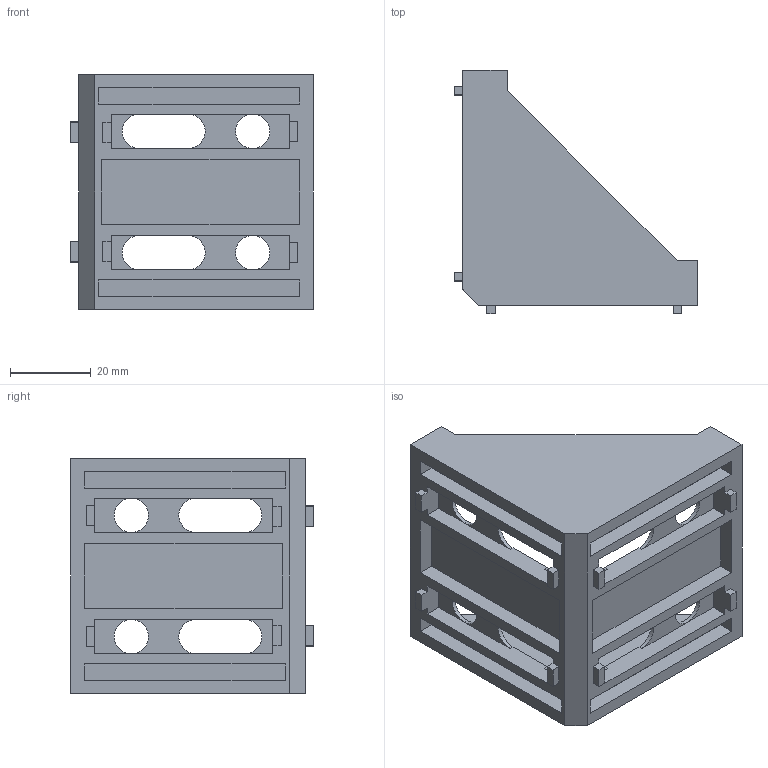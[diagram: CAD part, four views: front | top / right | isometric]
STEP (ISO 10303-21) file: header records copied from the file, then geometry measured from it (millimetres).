
FILE_DESCRIPTION (( 'STEP AP203' ), '1' );
FILE_NAME ('62－CE-RA6060-8.STEP', '2015-07-08T01:39:39', ( '' ), ( '' ), 'SwSTEP 2.0', 'SolidWorks 2013', '' );
FILE_SCHEMA (( 'CONFIG_CONTROL_DESIGN' ));
Length unit declared in the file: millimetre
Products named in the file (1): 62－CE-RA6060-8
Bounding box: 60 x 60 x 58 mm (x, y, z)
Volume: 25998 mm3; surface area: 23408.6 mm2
Topology: 1 solids, 1 shells, 125 faces, 351 edges, 230 vertices
Faces by surface type: plane 107, cylinder 18
Entity records: 4078 total; most frequent: CARTESIAN_POINT 707, ORIENTED_EDGE 702, DIRECTION 643, EDGE_CURVE 351, VECTOR 311, LINE 311, VERTEX_POINT 230, AXIS2_PLACEMENT_3D 166
